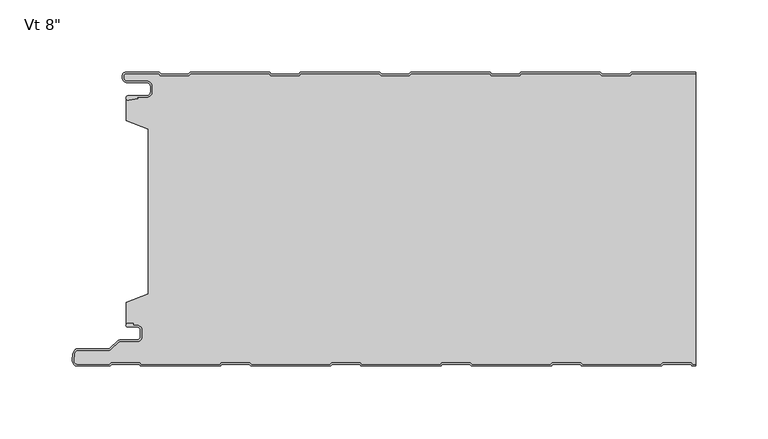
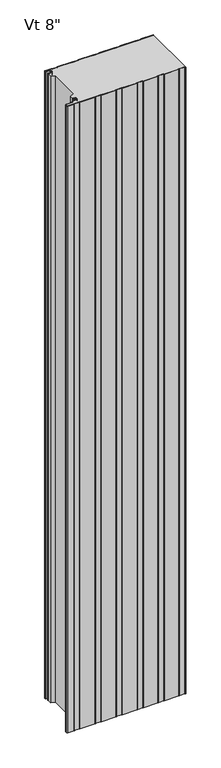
"""IFC4 building model written with IfcOpenShell, lengths in millimetres: plate geometry."""

import ifcopenshell
import ifcopenshell.guid

model = None  # the IFC model being written
_history = None  # IfcOwnerHistory: only IFC2X3 demands one
_inside = {}  # id of a spatial element -> (the spatial element, [elements in it])
_under = {}  # id of a project, library or spatial element -> (it, [spatial elements below it])
_declared = {}  # id of a project -> (the project, [libraries it declares])
_typed = {}  # id of a type object -> (the type object, [elements of that type])
_made_of = {}  # id of a material, layer set ... -> (it, [elements and type objects made of it])


def new_model(schema):
    """Start an empty IFC model of exactly this schema.

    Asked for "IFC4X3", IfcOpenShell would pick the latest addendum, in which some entities
    have other attributes; the version numbers below select the first issue.
    IFC2X3 requires an IfcOwnerHistory on every rooted entity: one is made here for all.
    """
    global model, _history
    if schema == "IFC4X3":
        model = ifcopenshell.file(schema_version=(4, 3, 0, 0))
    else:
        model = ifcopenshell.file(schema=schema)
    _inside.clear()
    _under.clear()
    _declared.clear()
    _typed.clear()
    _made_of.clear()
    _history = None
    if model.schema == "IFC2X3":
        org = make("IfcOrganization", Name="unknown")
        user = make(
            "IfcPersonAndOrganization",
            ThePerson=make("IfcPerson", FamilyName="unknown"),
            TheOrganization=org,
        )
        app = make(
            "IfcApplication",
            ApplicationDeveloper=org,
            Version="unknown",
            ApplicationFullName="unknown",
            ApplicationIdentifier="unknown",
        )
        _history = make(
            "IfcOwnerHistory",
            OwningUser=user,
            OwningApplication=app,
            ChangeAction="ADDED",
            CreationDate=0,
        )
    return model


def make(cls, **values):
    """One entity of the class cls with the attributes given. An attribute that is None is left unset."""
    return model.create_entity(
        cls, **{name: value for name, value in values.items() if value is not None}
    )


def rooted(cls, **values):
    """An entity with a GlobalId (a new one), such as an element, a storey or a relation."""
    return make(cls, GlobalId=ifcopenshell.guid.new(), OwnerHistory=_history, **values)


def si_unit(unit_type, name, prefix=None):
    """IfcSIUnit, for example si_unit("LENGTHUNIT", "METRE", prefix="MILLI")."""
    return make("IfcSIUnit", UnitType=unit_type, Prefix=prefix, Name=name)


def assignment(units):
    """IfcUnitAssignment: the units of a project."""
    return None if units is None else make("IfcUnitAssignment", Units=units)


def point(xyz):
    """IfcCartesianPoint."""
    return None if xyz is None else make("IfcCartesianPoint", Coordinates=xyz)


def direction(xyz):
    """IfcDirection."""
    return None if xyz is None else make("IfcDirection", DirectionRatios=xyz)


def frame(location, z_axis=None, x_axis=None):
    """IfcAxis2Placement3D, a coordinate frame: its origin and axes. An axis left out is left unset."""
    return make(
        "IfcAxis2Placement3D",
        Location=point(location),
        Axis=direction(z_axis),
        RefDirection=direction(x_axis),
    )


def frame_2d(location, x_axis=None):
    """IfcAxis2Placement2D, a coordinate frame in the plane: its origin and x axis."""
    return make(
        "IfcAxis2Placement2D", Location=point(location), RefDirection=direction(x_axis)
    )


def origin():
    """The frame at (0, 0, 0) with its axes left unset."""
    return frame((0.0, 0.0, 0.0))


def origin_with_axes():
    """The frame at (0, 0, 0) with the z axis (0, 0, 1) and the x axis (1, 0, 0) written out."""
    return frame((0.0, 0.0, 0.0), z_axis=(0.0, 0.0, 1.0), x_axis=(1.0, 0.0, 0.0))


def place(relative_to, where):
    """IfcLocalPlacement: puts the frame where relative to a parent placement (None: the world)."""
    return make(
        "IfcLocalPlacement", PlacementRelTo=relative_to, RelativePlacement=where
    )


def context(
    kind, dimensions, precision=None, world=None, true_north=None, identifier=None
):
    """IfcGeometricRepresentationContext, for example the 3D "Model" context."""
    return make(
        "IfcGeometricRepresentationContext",
        ContextIdentifier=identifier,
        ContextType=kind,
        CoordinateSpaceDimension=dimensions,
        Precision=precision,
        WorldCoordinateSystem=world,
        TrueNorth=true_north,
    )


def project(units=None, contexts=None):
    """IfcProject with its units and contexts."""
    return rooted(
        "IfcProject",
        Name="project",
        RepresentationContexts=contexts,
        UnitsInContext=assignment(units),
    )


def spatial(cls, under=None, at=None, **own):
    """A site, building, storey or space (cls), placed at a placement, below another one or the project."""
    s = rooted(cls, ObjectPlacement=at, **own)
    if under is not None:
        _under.setdefault(under.id(), (under, []))[1].append(s)
    return s


def polyline(points):
    """IfcPolyline through the points."""
    return make("IfcPolyline", Points=[point(p) for p in points])


def circle_curve(where, radius):
    """IfcCircle in the frame where."""
    return make("IfcCircle", Position=where, Radius=radius)


def trimmed(basis, trim1, trim2, sense, master):
    """IfcTrimmedCurve: the piece of a basis curve between two trims."""
    return make(
        "IfcTrimmedCurve",
        BasisCurve=basis,
        Trim1=trim1,
        Trim2=trim2,
        SenseAgreement=sense,
        MasterRepresentation=master,
    )


def segment(curve, same_sense, transition):
    """IfcCompositeCurveSegment."""
    return make(
        "IfcCompositeCurveSegment",
        Transition=transition,
        SameSense=same_sense,
        ParentCurve=curve,
    )


def composite_curve(segments, self_intersect=None):
    """IfcCompositeCurve: segments joined end to end."""
    return make("IfcCompositeCurve", Segments=segments, SelfIntersect=self_intersect)


def outline(outer, holes=None, kind="AREA"):
    """IfcArbitraryClosedProfileDef: a profile drawn as a closed curve; with holes, ...WithVoids."""
    if holes is None:
        return make("IfcArbitraryClosedProfileDef", ProfileType=kind, OuterCurve=outer)
    return make(
        "IfcArbitraryProfileDefWithVoids",
        ProfileType=kind,
        OuterCurve=outer,
        InnerCurves=holes,
    )


def extrude(swept, where, along, depth):
    """IfcExtrudedAreaSolid: the profile swept, set in the frame where, extruded along a direction by depth."""
    return make(
        "IfcExtrudedAreaSolid",
        SweptArea=swept,
        Position=where,
        ExtrudedDirection=direction(along),
        Depth=depth,
    )


def shape(context_of_items, identifier, shape_type, items):
    """IfcShapeRepresentation: the items that make up one representation, for example the "Body"."""
    return make(
        "IfcShapeRepresentation",
        ContextOfItems=context_of_items,
        RepresentationIdentifier=identifier,
        RepresentationType=shape_type,
        Items=items,
    )


def source(mapping_origin, context_of_items, identifier, shape_type, items):
    """IfcRepresentationMap: a shape defined once, which mapped items show again and again."""
    return make(
        "IfcRepresentationMap",
        MappingOrigin=mapping_origin,
        MappedRepresentation=shape(context_of_items, identifier, shape_type, items),
    )


def transform(
    local_origin,
    x_axis=None,
    y_axis=None,
    z_axis=None,
    scale=None,
    scale2=None,
    scale3=None,
    uniform=True,
):
    """IfcCartesianTransformationOperator3D, or its non-uniform kind. x_axis, y_axis, z_axis: its Axis1, 2, 3."""
    if uniform:
        return make(
            "IfcCartesianTransformationOperator3D",
            Axis1=direction(x_axis),
            Axis2=direction(y_axis),
            LocalOrigin=point(local_origin),
            Scale=scale,
            Axis3=direction(z_axis),
        )
    return make(
        "IfcCartesianTransformationOperator3DnonUniform",
        Axis1=direction(x_axis),
        Axis2=direction(y_axis),
        LocalOrigin=point(local_origin),
        Scale=scale,
        Axis3=direction(z_axis),
        Scale2=scale2,
        Scale3=scale3,
    )


def mapped(mapping_source, mapping_target):
    """IfcMappedItem: shows the shape of a source again, moved by a transform."""
    return make(
        "IfcMappedItem", MappingSource=mapping_source, MappingTarget=mapping_target
    )


def made_of(thing, what):
    """Note that an element or type object is made of a material, layer set ...; save() writes the relation."""
    if what is not None:
        _made_of.setdefault(what.id(), (what, []))[1].append(thing)
    return thing


def element(
    cls,
    number,
    at=None,
    inside=None,
    cuts=None,
    type_object=None,
    material=None,
    context=None,
    identifier="Body",
    shape_type=None,
    held_by="IfcProductDefinitionShape",
    body=None,
    shapes=None,
    **own,
):
    """One element of the class cls, such as IfcWall. Its Tag is "e" and its number.

    at: its placement. inside: the storey or other place that contains it. cuts: it is an
    opening in that element (IfcRelVoidsElement). A single representation is given by context,
    identifier, shape_type and body (its items); several are given by shapes. held_by: the class
    of the entity that holds the representations. save() writes the other relations.
    """
    e = rooted(cls, Tag="e%d" % number, ObjectPlacement=at, **own)
    if body is not None:
        shapes = [shape(context, identifier, shape_type, body)]
    if shapes is not None:
        e.Representation = make(held_by, Representations=shapes)
    if inside is not None:
        _inside.setdefault(inside.id(), (inside, []))[1].append(e)
    if cuts is not None:
        rooted(
            "IfcRelVoidsElement", RelatingBuildingElement=cuts, RelatedOpeningElement=e
        )
    if type_object is not None:
        _typed.setdefault(type_object.id(), (type_object, []))[1].append(e)
    return made_of(e, material)


def aggregate(whole, parts):
    """IfcRelAggregates: a whole, such as a stair, and the parts it consists of."""
    return rooted("IfcRelAggregates", RelatingObject=whole, RelatedObjects=parts)


def save(model, path):
    """Write the relations noted so far, then the file.

    IfcRelAggregates (storeys below a building ...), IfcRelContainedInSpatialStructure (elements
    in a storey), IfcRelDefinesByType, IfcRelAssociatesMaterial and IfcRelDeclares: one each for
    every whole, place, type object, material and project.
    """
    for whole, parts in _under.values():
        aggregate(whole, parts)
    for where, things in _inside.values():
        rooted(
            "IfcRelContainedInSpatialStructure",
            RelatedElements=things,
            RelatingStructure=where,
        )
    for kind, things in _typed.values():
        rooted("IfcRelDefinesByType", RelatedObjects=things, RelatingType=kind)
    for what, things in _made_of.values():
        rooted("IfcRelAssociatesMaterial", RelatedObjects=things, RelatingMaterial=what)
    for by, libraries in _declared.values():
        rooted("IfcRelDeclares", RelatingContext=by, RelatedDefinitions=libraries)
    model.write(path)


def plane_surface(at):
    """IfcPlane: the flat surface through the origin of the frame at, square to its z axis."""
    return make("IfcPlane", Position=at)


def cylinder_surface(at, radius):
    """IfcCylindricalSurface: all points at the distance radius from the z axis of the frame at."""
    return make("IfcCylindricalSurface", Position=at, Radius=radius)


def revolved_surface(curve, axis_point, axis_direction):
    """IfcSurfaceOfRevolution: the curve turned about the line through axis_point along axis_direction."""
    return make(
        "IfcSurfaceOfRevolution",
        SweptCurve=make("IfcArbitraryOpenProfileDef", ProfileType="CURVE", Curve=curve),
        AxisPosition=make("IfcAxis1Placement", Location=point(axis_point), Axis=direction(axis_direction)),
    )


def advanced_brep(points, edges, surfaces, faces):
    """IfcAdvancedBrep: a solid bounded by faces that lie on surfaces and meet in shared edges.

    An edge is (start, end): straight between two places in points (the first is 0);
    or (start, end, curve); or (start, end, curve, False) where it runs against its curve.
    A face is (place in surfaces, loops), or (place, loops, False) where it looks against
    its surface's normal. A loop lists edges by number (the first is 1), with a minus sign
    where the edge is run from its end to its start. The first loop is the outer one.
    """
    corners = [point(p) for p in points]
    vertices = [make("IfcVertexPoint", VertexGeometry=c) for c in corners]
    made = []
    for start, end, *more in edges:
        made.append(
            make(
                "IfcEdgeCurve",
                EdgeStart=vertices[start],
                EdgeEnd=vertices[end],
                EdgeGeometry=more[0] if more else make("IfcPolyline", Points=[corners[start], corners[end]]),
                SameSense=more[1] if len(more) > 1 else True,
            )
        )
    hull = []
    for where, loops, *sense in faces:
        bounds = []
        for j, loop in enumerate(loops):
            ring = [make("IfcOrientedEdge", EdgeElement=made[abs(k) - 1], Orientation=k > 0) for k in loop]
            bounds.append(
                make(
                    "IfcFaceOuterBound" if j == 0 else "IfcFaceBound",
                    Bound=make("IfcEdgeLoop", EdgeList=ring),
                    Orientation=True,
                )
            )
        hull.append(make("IfcAdvancedFace", Bounds=bounds, FaceSurface=surfaces[where], SameSense=sense[0] if sense else True))
    return make("IfcAdvancedBrep", Outer=make("IfcClosedShell", CfsFaces=hull))


def plate_7f17f36e(model_context):
    return source(origin(), model_context, "Body", "SolidModel", [
        extrude(outline(composite_curve([segment(polyline([(-196.9639401, -1.03e-05), (-173.8991777, -1.03e-05), (-172.6989573, -1.2002307), (-153.8919247, -1.2002307), (-152.6916939, 0.0), (-97.6993404, 0.0), (-96.4991097, -1.2002307), (-77.6920771, -1.2002307), (-76.4918463, 0.0), (-21.5159312, 0.0), (-20.3157004, -1.2002307), (-1.5086678, -1.2002307), (-0.3084371, 0.0), (54.667478, 0.0), (55.8677088, -1.2002307), (74.6747414, -1.2002307), (75.8749721, 0.0), (130.8673256, 0.0), (132.0675564, -1.2002307), (150.874589, -1.2002307), (152.0748197, 0.0), (196.6137654, 0.0), (196.6137654, -1.0), (152.4890333, -1.0), (151.2888025, -2.2002307), (131.6533428, -2.2002307), (130.4531121, -1.0), (76.2891857, -1.0), (75.0889549, -2.2002307), (55.4534952, -2.2002307), (54.2532645, -1.0), (0.1057765, -1.0), (-1.0944543, -2.2002307), (-20.729914, -2.2002307), (-21.9301447, -1.0), (-76.0776328, -1.0), (-77.2778635, -2.2002307), (-96.9133232, -2.2002307), (-98.113554, -1.0), (-152.2774804, -1.0), (-153.4777111, -2.2002307), (-173.1131708, -2.2002307), (-174.3133912, -1.0000103), (-196.9839768, -1.0000103)]), True, "CONTINUOUS"), segment(trimmed(circle_curve(frame_2d((-197.0487242, -2.3984828)), 1.3999705), [point((-196.9839768, -1.0000103))], [point((-198.4486947, -2.3984828))], True, "CARTESIAN"), True, "CONTINUOUS"), segment(polyline([(-198.4486947, -2.3984828), (-198.4486947, -3.9515996)]), True, "CONTINUOUS"), segment(trimmed(circle_curve(frame_2d((-196.2386394, -3.9515996)), 2.2100553), [point((-198.4486947, -3.9515996))], [point((-196.2386394, -6.1616549))], True, "CARTESIAN"), True, "CONTINUOUS"), segment(polyline([(-196.2386394, -6.1616549), (-182.7094114, -6.1616549)]), True, "CONTINUOUS"), segment(trimmed(circle_curve(frame_2d((-182.7094114, -9.881641)), 3.7199861), [point((-182.7094114, -6.1616549))], [point((-178.9894252, -9.881641))], False, "CARTESIAN"), True, "CONTINUOUS"), segment(polyline([(-178.9894252, -9.881641), (-178.9894252, -13.5282389)]), True, "CONTINUOUS"), segment(trimmed(circle_curve(frame_2d((-182.7094216, -13.5282389)), 3.7199964), [point((-178.9894252, -13.5282389))], [point((-182.7094216, -17.2482353))], False, "CARTESIAN"), True, "CONTINUOUS"), segment(polyline([(-182.7094216, -17.2482353), (-189.0545396, -17.2482353), (-188.8919338, -18.1704184), (-195.1454629, -19.2730843)]), True, "CONTINUOUS"), segment(trimmed(circle_curve(frame_2d((-195.4101029, -17.7722363)), 1.524001), [point((-195.1454629, -19.2730843))], [point((-195.4101029, -16.2482353))], False, "CARTESIAN"), True, "CONTINUOUS"), segment(polyline([(-195.4101029, -16.2482353), (-182.7094216, -16.2482353)]), True, "CONTINUOUS"), segment(trimmed(circle_curve(frame_2d((-182.7094216, -13.5282389)), 2.7199964), [point((-182.7094216, -16.2482353))], [point((-179.9894252, -13.5282389))], True, "CARTESIAN"), True, "CONTINUOUS"), segment(polyline([(-179.9894252, -13.5282389), (-179.9894252, -9.881641)]), True, "CONTINUOUS"), segment(trimmed(circle_curve(frame_2d((-182.7094114, -9.881641)), 2.7199861), [point((-179.9894252, -9.881641))], [point((-182.7094114, -7.1616549))], True, "CARTESIAN"), True, "CONTINUOUS"), segment(polyline([(-182.7094114, -7.1616549), (-196.2386394, -7.1616549)]), True, "CONTINUOUS"), segment(trimmed(circle_curve(frame_2d((-196.2386394, -3.9515996)), 3.2100553), [point((-196.2386394, -7.1616549))], [point((-199.4486948, -3.9515996))], False, "CARTESIAN"), True, "CONTINUOUS"), segment(polyline([(-199.4486948, -3.9515996), (-199.4486947, -2.3984828)]), True, "CONTINUOUS"), segment(trimmed(circle_curve(frame_2d((-197.0487242, -2.3984828)), 2.3999705), [point((-199.4486947, -2.3984828))], [point((-196.9639401, -1.03e-05))], False, "CARTESIAN"), True, "CONTINUOUS")], self_intersect=False)), origin_with_axes(), (0.0, 0.0, 1.0), 2400.0),
        extrude(outline(composite_curve([segment(polyline([(-195.7329864, -173.7057711), (-191.9745857, -173.7057711), (-191.9745857, -175.1042547), (-189.2754693, -175.1042547)]), True, "CONTINUOUS"), segment(trimmed(circle_curve(frame_2d((-189.2754693, -178.4542546)), 3.3499999), [point((-189.2754693, -175.1042547))], [point((-185.9254694, -178.4542546))], False, "CARTESIAN"), True, "CONTINUOUS"), segment(polyline([(-185.9254694, -178.4542546), (-185.9254694, -182.8542544)]), True, "CONTINUOUS"), segment(trimmed(circle_curve(frame_2d((-189.2754693, -182.8542544)), 3.3499999), [point((-185.9254694, -182.8542544))], [point((-189.2754693, -186.2042543))], False, "CARTESIAN"), True, "CONTINUOUS"), segment(polyline([(-189.2754693, -186.2042543), (-201.0863815, -186.2042543)]), True, "CONTINUOUS"), segment(trimmed(circle_curve(frame_2d((-201.0863815, -187.9042543)), 1.7), [point((-201.0863815, -186.2042543))], [point((-202.288463, -186.7021728))], True, "CARTESIAN"), True, "CONTINUOUS"), segment(polyline([(-202.288463, -186.7021728), (-207.029022, -191.4427317)]), True, "CONTINUOUS"), segment(trimmed(circle_curve(frame_2d((-208.8674996, -189.6042541)), 2.6), [point((-207.029022, -191.4427317))], [point((-208.8674996, -192.2042541))], False, "CARTESIAN"), True, "CONTINUOUS"), segment(polyline([(-208.8674996, -192.2042541), (-229.8742569, -192.2042541)]), True, "CONTINUOUS"), segment(trimmed(circle_curve(frame_2d((-229.8742569, -194.9042541)), 2.7), [point((-229.8742569, -192.2042541))], [point((-232.563964, -194.6687213))], True, "CARTESIAN"), True, "CONTINUOUS"), segment(polyline([(-232.563964, -194.6687213), (-232.9796492, -199.4157099)]), True, "CONTINUOUS"), segment(trimmed(circle_curve(frame_2d((-230.4287597, -199.6390867)), 2.5606512), [point((-232.9796492, -199.4157099))], [point((-230.4287597, -202.1997378))], True, "CARTESIAN"), True, "CONTINUOUS"), segment(polyline([(-230.4287597, -202.1997378), (-208.4557382, -202.1997378), (-207.2557697, -200.9997693), (-187.5363572, -200.9997693), (-186.3361265, -202.2), (-132.2559947, -202.2), (-131.055764, -200.9997693), (-111.3363515, -200.9997693), (-110.1361208, -202.2), (-56.055989, -202.2), (-54.8557583, -200.9997693), (-35.1363458, -200.9997693), (-33.9361151, -202.2), (20.1440167, -202.2), (21.3442474, -200.9997693), (41.0636599, -200.9997693), (42.2638906, -202.2), (96.3440224, -202.2), (97.5442531, -200.9997693), (117.2636656, -200.9997693), (118.4638963, -202.2), (172.5440281, -202.2), (173.7442588, -200.9997693), (193.4636713, -200.9997693), (194.663902, -202.2), (196.6137654, -202.2), (196.6137654, -203.2), (194.8333369, -203.2)]), True, "CONTINUOUS"), segment(trimmed(circle_curve(frame_2d((194.8256836, -201.8000237)), 1.3999972), [point((194.8333369, -203.2))], [point((193.7816329, -202.7327349))], False, "CARTESIAN"), True, "CONTINUOUS"), segment(polyline([(193.7816329, -202.7327349), (193.0486673, -201.9997693), (174.1579981, -201.9997693), (173.4250534, -202.732714)]), True, "CONTINUOUS"), segment(trimmed(circle_curve(frame_2d((172.3810026, -201.8000028)), 1.3999972), [point((173.4250534, -202.732714))], [point((172.3810026, -203.2))], False, "CARTESIAN"), True, "CONTINUOUS"), segment(polyline([(172.3810026, -203.2), (118.6334893, -203.2)]), True, "CONTINUOUS"), segment(trimmed(circle_curve(frame_2d((118.625836, -201.8000237)), 1.3999972), [point((118.6334893, -203.2))], [point((117.5817853, -202.7327349))], False, "CARTESIAN"), True, "CONTINUOUS"), segment(polyline([(117.5817853, -202.7327349), (116.8488197, -201.9997693), (97.9581505, -201.9997693), (97.2252058, -202.732714)]), True, "CONTINUOUS"), segment(trimmed(circle_curve(frame_2d((96.181155, -201.8000028)), 1.3999972), [point((97.2252058, -202.732714))], [point((96.181155, -203.2))], False, "CARTESIAN"), True, "CONTINUOUS"), segment(polyline([(96.181155, -203.2), (42.4336417, -203.2)]), True, "CONTINUOUS"), segment(trimmed(circle_curve(frame_2d((42.4259884, -201.8000237)), 1.3999972), [point((42.4336417, -203.2))], [point((41.3819376, -202.7327349))], False, "CARTESIAN"), True, "CONTINUOUS"), segment(polyline([(41.3819376, -202.7327349), (40.6489721, -201.9997693), (21.7583029, -201.9997693), (21.0253582, -202.732714)]), True, "CONTINUOUS"), segment(trimmed(circle_curve(frame_2d((19.9813074, -201.8000028)), 1.3999972), [point((21.0253582, -202.732714))], [point((19.9813074, -203.2))], False, "CARTESIAN"), True, "CONTINUOUS"), segment(polyline([(19.9813074, -203.2), (-33.7662059, -203.2)]), True, "CONTINUOUS"), segment(trimmed(circle_curve(frame_2d((-33.7738592, -201.8000237)), 1.3999972), [point((-33.7662059, -203.2))], [point((-34.81791, -202.7327349))], False, "CARTESIAN"), True, "CONTINUOUS"), segment(polyline([(-34.81791, -202.7327349), (-35.5508755, -201.9997693), (-54.4415447, -201.9997693), (-55.1744894, -202.732714)]), True, "CONTINUOUS"), segment(trimmed(circle_curve(frame_2d((-56.2185402, -201.8000028)), 1.3999972), [point((-55.1744894, -202.732714))], [point((-56.2185402, -203.2))], False, "CARTESIAN"), True, "CONTINUOUS"), segment(polyline([(-56.2185402, -203.2), (-109.9660535, -203.2)]), True, "CONTINUOUS"), segment(trimmed(circle_curve(frame_2d((-109.9737068, -201.8000237)), 1.3999972), [point((-109.9660535, -203.2))], [point((-111.0177576, -202.7327349))], False, "CARTESIAN"), True, "CONTINUOUS"), segment(polyline([(-111.0177576, -202.7327349), (-111.7507231, -201.9997693), (-130.6413923, -201.9997693), (-131.374337, -202.732714)]), True, "CONTINUOUS"), segment(trimmed(circle_curve(frame_2d((-132.4183878, -201.8000028)), 1.3999972), [point((-131.374337, -202.732714))], [point((-132.4183878, -203.2))], False, "CARTESIAN"), True, "CONTINUOUS"), segment(polyline([(-132.4183878, -203.2), (-186.1659011, -203.2)]), True, "CONTINUOUS"), segment(trimmed(circle_curve(frame_2d((-186.1735544, -201.8000237)), 1.3999972), [point((-186.1659011, -203.2))], [point((-187.2176052, -202.7327349))], False, "CARTESIAN"), True, "CONTINUOUS"), segment(polyline([(-187.2176052, -202.7327349), (-187.9505707, -201.9997693), (-206.8415561, -201.9997693), (-207.5742824, -202.7324955)]), True, "CONTINUOUS"), segment(trimmed(circle_curve(frame_2d((-208.6182354, -201.7998717)), 1.3998661), [point((-207.5742824, -202.7324955))], [point((-208.6182354, -203.1997378))], False, "CARTESIAN"), True, "CONTINUOUS"), segment(polyline([(-208.6182354, -203.1997378), (-230.4287597, -203.1997378)]), True, "CONTINUOUS"), segment(trimmed(circle_curve(frame_2d((-230.4287597, -199.6390867)), 3.5606512), [point((-230.4287597, -203.1997378))], [point((-233.975837, -199.3284755))], False, "CARTESIAN"), True, "CONTINUOUS"), segment(polyline([(-233.975837, -199.3284755), (-233.5601518, -194.581487)]), True, "CONTINUOUS"), segment(trimmed(circle_curve(frame_2d((-229.8742569, -194.9042541)), 3.7), [point((-233.5601518, -194.581487))], [point((-229.8742569, -191.2042541))], False, "CARTESIAN"), True, "CONTINUOUS"), segment(polyline([(-229.8742569, -191.2042541), (-208.8674996, -191.2042541)]), True, "CONTINUOUS"), segment(trimmed(circle_curve(frame_2d((-208.8674996, -189.6042541)), 1.6), [point((-208.8674996, -191.2042541))], [point((-207.7361288, -190.735625))], True, "CARTESIAN"), True, "CONTINUOUS"), segment(polyline([(-207.7361288, -190.735625), (-202.9955698, -185.995066)]), True, "CONTINUOUS"), segment(trimmed(circle_curve(frame_2d((-201.0863815, -187.9042543)), 2.7), [point((-202.9955698, -185.995066))], [point((-201.0863815, -185.2042543))], False, "CARTESIAN"), True, "CONTINUOUS"), segment(polyline([(-201.0863815, -185.2042543), (-189.2754693, -185.2042543)]), True, "CONTINUOUS"), segment(trimmed(circle_curve(frame_2d((-189.2754693, -182.8542544)), 2.3499999), [point((-189.2754693, -185.2042543))], [point((-186.9254694, -182.8542544))], True, "CARTESIAN"), True, "CONTINUOUS"), segment(polyline([(-186.9254694, -182.8542544), (-186.9254694, -178.4542546)]), True, "CONTINUOUS"), segment(trimmed(circle_curve(frame_2d((-189.2754693, -178.4542546)), 2.3499999), [point((-186.9254694, -178.4542546))], [point((-189.2754693, -176.1042547))], True, "CARTESIAN"), True, "CONTINUOUS"), segment(polyline([(-189.2754693, -176.1042547), (-195.7947883, -176.1042547)]), True, "CONTINUOUS"), segment(trimmed(circle_curve(frame_2d((-195.734501, -174.9057701)), 1.2), [point((-195.7947883, -176.1042547))], [point((-195.7329864, -173.7057711))], False, "CARTESIAN"), True, "CONTINUOUS")], self_intersect=False)), origin_with_axes(), (0.0, 0.0, 1.0), 2400.0),
        advanced_brep(
        [(-189.2754693, -175.1042547, 2400.0), (-185.9254694, -178.4542546, 2400.0), (-185.9254694, -182.8542544, 2400.0), (-189.2754693, -186.2042543, 2400.0), (-201.0863815, -186.2042543, 2400.0), (-202.288463, -186.7021728, 2400.0), (-207.029022, -191.4427317, 2400.0), (-208.8674996, -192.2042541, 2400.0), (-229.8742569, -192.2042541, 2400.0), (-232.563964, -194.6687213, 2400.0), (-232.9796492, -199.4157099, 2400.0), (-230.4287597, -202.1997378, 2400.0), (-208.4557382, -202.1997378, 2400.0), (-207.2557697, -200.9997693, 2400.0), (-187.5363572, -200.9997693, 2400.0), (-186.3361265, -202.2, 2400.0), (-132.2559947, -202.2, 2400.0), (-131.055764, -200.9997693, 2400.0), (-111.3363515, -200.9997693, 2400.0), (-110.1361208, -202.2, 2400.0), (-56.055989, -202.2, 2400.0), (-54.8557583, -200.9997693, 2400.0), (-35.1363458, -200.9997693, 2400.0), (-33.9361151, -202.2, 2400.0), (20.1440167, -202.2, 2400.0), (21.3442474, -200.9997693, 2400.0), (41.0636599, -200.9997693, 2400.0), (42.2638906, -202.2, 2400.0), (96.3440224, -202.2, 2400.0), (97.5442531, -200.9997693, 2400.0), (117.2636656, -200.9997693, 2400.0), (118.4638963, -202.2, 2400.0), (172.5440281, -202.2, 2400.0), (173.7442588, -200.9997693, 2400.0), (193.4636713, -200.9997693, 2400.0), (194.663902, -202.2, 2400.0), (196.6137654, -202.2, 2400.0), (196.6137654, -1.0, 2400.0), (152.4890333, -1.0, 2400.0), (151.2888025, -2.2002307, 2400.0), (131.6533428, -2.2002307, 2400.0), (130.4531121, -1.0, 2400.0), (76.2891857, -1.0, 2400.0), (75.0889549, -2.2002307, 2400.0), (55.4534952, -2.2002307, 2400.0), (54.2532645, -1.0, 2400.0), (0.1057765, -1.0, 2400.0), (-1.0944543, -2.2002307, 2400.0), (-20.729914, -2.2002307, 2400.0), (-21.9301447, -1.0, 2400.0), (-76.0776328, -1.0, 2400.0), (-77.2778635, -2.2002307, 2400.0), (-96.9133232, -2.2002307, 2400.0), (-98.113554, -1.0, 2400.0), (-152.2774804, -1.0, 2400.0), (-153.4777111, -2.2002307, 2400.0), (-173.1131708, -2.2002307, 2400.0), (-174.3133912, -1.0000103, 2400.0), (-196.9839768, -1.0000103, 2400.0), (-198.4486947, -2.3984828, 2400.0), (-198.4486947, -3.9515996, 2400.0), (-196.2386394, -6.1616549, 2400.0), (-182.7094114, -6.1616549, 2400.0), (-178.9894252, -9.881641, 2400.0), (-178.9894252, -13.5282389, 2400.0), (-182.7094216, -17.2482353, 2400.0), (-189.0545396, -17.2482353, 2400.0), (-188.8919338, -18.1704184, 2400.0), (-195.1454629, -19.2730843, 2400.0), (-196.5999998, -18.7244571, 2400.0), (-196.5999998, -33.5050578, 2400.0), (-181.6020466, -39.1301019, 2400.0), (-181.588281, -153.3686066, 2400.0), (-196.5999998, -158.992572, 2400.0), (-196.5999998, -174.0745591, 2400.0), (-195.7329864, -173.7057711, 2400.0), (-191.9745857, -173.7057711, 2400.0), (-191.9745857, -175.1042547, 2400.0), (-189.2754693, -175.1042547, 0.0), (-191.9745857, -175.1042547, 0.0), (-191.9745857, -173.7057711, 0.0), (-195.7329864, -173.7057711, 0.0), (-196.5999998, -174.0745591, 0.0), (-196.5999998, -158.992572, 0.0), (-181.6020466, -153.3683444, 0.0), (-181.588281, -39.1301019, 0.0), (-196.5999998, -33.5050578, 0.0), (-196.5999998, -18.7244571, 0.0), (-195.1454629, -19.2730843, 0.0), (-188.8919338, -18.1704184, 0.0), (-189.0545396, -17.2482353, 0.0), (-182.7094216, -17.2482353, 0.0), (-178.9894252, -13.5282389, 0.0), (-178.9894252, -9.881641, 0.0), (-182.7094114, -6.1616549, 0.0), (-196.2386394, -6.1616549, 0.0), (-198.4486948, -3.9515996, 0.0), (-198.4486947, -2.3984828, 0.0), (-196.9839768, -1.0000103, 0.0), (-174.3133912, -1.0000103, 0.0), (-173.1131708, -2.2002307, 0.0), (-153.4777111, -2.2002307, 0.0), (-152.2774804, -1.0, 0.0), (-98.113554, -1.0, 0.0), (-96.9133232, -2.2002307, 0.0), (-77.2778635, -2.2002307, 0.0), (-76.0776328, -1.0, 0.0), (-21.9301447, -1.0, 0.0), (-20.729914, -2.2002307, 0.0), (-1.0944543, -2.2002307, 0.0), (0.1057765, -1.0, 0.0), (54.2532645, -1.0, 0.0), (55.4534952, -2.2002307, 0.0), (75.0889549, -2.2002307, 0.0), (76.2891857, -1.0, 0.0), (130.4531121, -1.0, 0.0), (131.6533428, -2.2002307, 0.0), (151.2888025, -2.2002307, 0.0), (152.4890333, -1.0, 0.0), (196.6137654, -1.0, 0.0), (196.6137654, -202.2, 0.0), (194.663902, -202.2, 0.0), (193.4636713, -200.9997693, 0.0), (173.7442588, -200.9997693, 0.0), (172.5440281, -202.2, 0.0), (118.4638963, -202.2, 0.0), (117.2636656, -200.9997693, 0.0), (97.5442531, -200.9997693, 0.0), (96.3440224, -202.2, 0.0), (42.2638906, -202.2, 0.0), (41.0636599, -200.9997693, 0.0), (21.3442474, -200.9997693, 0.0), (20.1440167, -202.2, 0.0), (-33.9361151, -202.2, 0.0), (-35.1363458, -200.9997693, 0.0), (-54.8557583, -200.9997693, 0.0), (-56.055989, -202.2, 0.0), (-110.1361208, -202.2, 0.0), (-111.3363515, -200.9997693, 0.0), (-131.055764, -200.9997693, 0.0), (-132.2559947, -202.2, 0.0), (-186.3361265, -202.2, 0.0), (-187.5363572, -200.9997693, 0.0), (-207.2557697, -200.9997693, 0.0), (-208.4557382, -202.1997378, 0.0), (-230.4287597, -202.1997378, 0.0), (-232.9796492, -199.4157099, 0.0), (-232.563964, -194.6687213, 0.0), (-229.8742569, -192.2042541, 0.0), (-208.8674996, -192.2042541, 0.0), (-207.029022, -191.4427317, 0.0), (-202.288463, -186.7021728, 0.0), (-201.0863815, -186.2042543, 0.0), (-189.2754693, -186.2042543, 0.0), (-185.9254694, -182.8542544, 0.0), (-185.9254694, -178.4542546, 0.0)],
        [
            (0, 1, circle_curve(frame((-189.2754693, -178.4542546, 2400.0), z_axis=(0.0, 0.0, -1.0), x_axis=(-1.0, 0.0, 0.0)), 3.3499999)),
            (1, 2),
            (2, 3, circle_curve(frame((-189.2754693, -182.8542544, 2400.0), z_axis=(0.0, 0.0, -1.0), x_axis=(-1.0, 0.0, 0.0)), 3.3499999)),
            (3, 4),
            (4, 5, circle_curve(frame((-201.0863815, -187.9042543, 2400.0), z_axis=(0.0, 0.0, 1.0), x_axis=(-1.0, 0.0, 0.0)), 1.7)),
            (5, 6),
            (6, 7, circle_curve(frame((-208.8674996, -189.6042541, 2400.0), z_axis=(0.0, 0.0, -1.0), x_axis=(-1.0, 0.0, 0.0)), 2.6)),
            (7, 8),
            (8, 9, circle_curve(frame((-229.8742569, -194.9042541, 2400.0), z_axis=(0.0, 0.0, 1.0), x_axis=(-1.0, 0.0, 0.0)), 2.7)),
            (9, 10),
            (10, 11, circle_curve(frame((-230.4287597, -199.6390867, 2400.0), z_axis=(0.0, 0.0, 1.0), x_axis=(-1.0, 0.0, 0.0)), 2.5606512)),
            (11, 12),
            (12, 13),
            (13, 14),
            (14, 15),
            (15, 16),
            (16, 17),
            (17, 18),
            (18, 19),
            (19, 20),
            (20, 21),
            (21, 22),
            (22, 23),
            (23, 24),
            (24, 25),
            (25, 26),
            (26, 27),
            (27, 28),
            (28, 29),
            (29, 30),
            (30, 31),
            (31, 32),
            (32, 33),
            (33, 34),
            (34, 35),
            (35, 36),
            (36, 37),
            (37, 38),
            (38, 39),
            (39, 40),
            (40, 41),
            (41, 42),
            (42, 43),
            (43, 44),
            (44, 45),
            (45, 46),
            (46, 47),
            (47, 48),
            (48, 49),
            (49, 50),
            (50, 51),
            (51, 52),
            (52, 53),
            (53, 54),
            (54, 55),
            (55, 56),
            (56, 57),
            (57, 58),
            (58, 59, circle_curve(frame((-197.0487242, -2.3984828, 2400.0), z_axis=(0.0, 0.0, 1.0), x_axis=(-1.0, 0.0, 0.0)), 1.3999705)),
            (59, 60),
            (60, 61, circle_curve(frame((-196.2386394, -3.9515996, 2400.0), z_axis=(0.0, 0.0, 1.0), x_axis=(-1.0, 0.0, 0.0)), 2.2100553)),
            (61, 62),
            (62, 63, circle_curve(frame((-182.7094114, -9.881641, 2400.0), z_axis=(0.0, 0.0, -1.0), x_axis=(-1.0, 0.0, 0.0)), 3.7199861)),
            (63, 64),
            (64, 65, circle_curve(frame((-182.7094216, -13.5282389, 2400.0), z_axis=(0.0, 0.0, -1.0), x_axis=(-1.0, 0.0, 0.0)), 3.7199964)),
            (65, 66),
            (66, 67),
            (67, 68),
            (68, 69, circle_curve(frame((-195.4101029, -17.7722363, 2400.0), z_axis=(0.0, 0.0, -1.0), x_axis=(-1.0, 0.0, 0.0)), 1.524001)),
            (69, 70),
            (70, 71),
            (71, 72),
            (72, 73),
            (73, 74),
            (74, 75, circle_curve(frame((-195.734501, -174.9057701, 2400.0), z_axis=(0.0, 0.0, -1.0), x_axis=(-1.0, 0.0, 0.0)), 1.2)),
            (75, 76),
            (76, 77),
            (77, 0),
            (78, 79),
            (79, 80),
            (80, 81),
            (81, 82, circle_curve(frame((-195.734501, -174.9057701, 0.0), z_axis=(0.0, 0.0, 1.0), x_axis=(-1.0, 0.0, 0.0)), 1.2)),
            (82, 83),
            (83, 84),
            (84, 85),
            (85, 86),
            (86, 87),
            (87, 88, circle_curve(frame((-195.4101029, -17.7722363, 0.0), z_axis=(0.0, 0.0, 1.0), x_axis=(-1.0, 0.0, 0.0)), 1.524001)),
            (88, 89),
            (89, 90),
            (90, 91),
            (91, 92, circle_curve(frame((-182.7094216, -13.5282389, 0.0), z_axis=(0.0, 0.0, 1.0), x_axis=(-1.0, 0.0, 0.0)), 3.7199964)),
            (92, 93),
            (93, 94, circle_curve(frame((-182.7094114, -9.881641, 0.0), z_axis=(0.0, 0.0, 1.0), x_axis=(-1.0, 0.0, 0.0)), 3.7199861)),
            (94, 95),
            (95, 96, circle_curve(frame((-196.2386394, -3.9515996, 0.0), z_axis=(0.0, 0.0, -1.0), x_axis=(-1.0, 0.0, 0.0)), 2.2100553)),
            (96, 97),
            (97, 98, circle_curve(frame((-197.0487242, -2.3984828, 0.0), z_axis=(0.0, 0.0, -1.0), x_axis=(-1.0, 0.0, 0.0)), 1.3999705)),
            (98, 99),
            (99, 100),
            (100, 101),
            (101, 102),
            (102, 103),
            (103, 104),
            (104, 105),
            (105, 106),
            (106, 107),
            (107, 108),
            (108, 109),
            (109, 110),
            (110, 111),
            (111, 112),
            (112, 113),
            (113, 114),
            (114, 115),
            (115, 116),
            (116, 117),
            (117, 118),
            (118, 119),
            (119, 120),
            (120, 121),
            (121, 122),
            (122, 123),
            (123, 124),
            (124, 125),
            (125, 126),
            (126, 127),
            (127, 128),
            (128, 129),
            (129, 130),
            (130, 131),
            (131, 132),
            (132, 133),
            (133, 134),
            (134, 135),
            (135, 136),
            (136, 137),
            (137, 138),
            (138, 139),
            (139, 140),
            (140, 141),
            (141, 142),
            (142, 143),
            (143, 144),
            (144, 145),
            (145, 146, circle_curve(frame((-230.4287597, -199.6390867, 0.0), z_axis=(0.0, 0.0, -1.0), x_axis=(-1.0, 0.0, 0.0)), 2.5606512)),
            (146, 147),
            (147, 148, circle_curve(frame((-229.8742569, -194.9042541, 0.0), z_axis=(0.0, 0.0, -1.0), x_axis=(-1.0, 0.0, 0.0)), 2.7)),
            (148, 149),
            (149, 150, circle_curve(frame((-208.8674996, -189.6042541, 0.0), z_axis=(0.0, 0.0, 1.0), x_axis=(-1.0, 0.0, 0.0)), 2.6)),
            (150, 151),
            (151, 152, circle_curve(frame((-201.0863815, -187.9042543, 0.0), z_axis=(0.0, 0.0, -1.0), x_axis=(-1.0, 0.0, 0.0)), 1.7)),
            (152, 153),
            (153, 154, circle_curve(frame((-189.2754693, -182.8542544, 0.0), z_axis=(0.0, 0.0, 1.0), x_axis=(-1.0, 0.0, 0.0)), 3.3499999)),
            (154, 155),
            (155, 78, circle_curve(frame((-189.2754693, -178.4542546, 0.0), z_axis=(0.0, 0.0, 1.0), x_axis=(-1.0, 0.0, 0.0)), 3.3499999)),
            (62, 94),
            (93, 63),
            (61, 95),
            (60, 96),
            (59, 97),
            (58, 98),
            (57, 99),
            (56, 100),
            (55, 101),
            (54, 102),
            (53, 103),
            (52, 104),
            (51, 105),
            (50, 106),
            (49, 107),
            (48, 108),
            (47, 109),
            (46, 110),
            (45, 111),
            (44, 112),
            (43, 113),
            (42, 114),
            (41, 115),
            (40, 116),
            (39, 117),
            (38, 118),
            (37, 119),
            (70, 86),
            (85, 71),
            (69, 87),
            (68, 88),
            (67, 89),
            (66, 90),
            (65, 91),
            (64, 92),
            (84, 72),
            (0, 78),
            (155, 1),
            (77, 79),
            (76, 80),
            (75, 81),
            (74, 82),
            (10, 146),
            (145, 11),
            (9, 147),
            (8, 148),
            (7, 149),
            (6, 150),
            (5, 151),
            (4, 152),
            (3, 153),
            (2, 154),
            (73, 83),
            (144, 12),
            (13, 143),
            (142, 14),
            (141, 15),
            (140, 16),
            (17, 139),
            (138, 18),
            (137, 19),
            (136, 20),
            (21, 135),
            (134, 22),
            (133, 23),
            (132, 24),
            (25, 131),
            (130, 26),
            (129, 27),
            (128, 28),
            (29, 127),
            (126, 30),
            (125, 31),
            (124, 32),
            (33, 123),
            (122, 34),
            (121, 35),
            (120, 36),
        ],
        [
            plane_surface(frame((336.2637657, -202.2, 2400.0), z_axis=(0.0, 0.0, 1.0), x_axis=(0.0, -1.0, 0.0))),
            plane_surface(frame((336.2637657, -202.2, 0.0), z_axis=(0.0, 0.0, -1.0), x_axis=(0.0, -1.0, 0.0))),
            revolved_surface(polyline([(-186.4293975, -9.881641, 0.0), (-186.4293975, -9.881641, 2400.0)]), (-182.7094114, -9.881641, 2400.0), (0.0, 0.0, -1.0)),
            plane_surface(frame((-182.7094114, -6.1616549, 2400.0), z_axis=(0.0, -1.0, 0.0), x_axis=(0.0, 0.0, -1.0))),
            cylinder_surface(frame((-196.2386394, -3.9515996, 2400.0), z_axis=(0.0, 0.0, 1.0), x_axis=(-1.0, 0.0, 0.0)), 2.2100553),
            plane_surface(frame((-198.4486947, -3.9515996, 2400.0), z_axis=(-1.0, 0.0, 0.0), x_axis=(0.0, 0.0, -1.0))),
            cylinder_surface(frame((-197.0487242, -2.3984828, 2400.0), z_axis=(0.0, 0.0, 1.0), x_axis=(-1.0, 0.0, 0.0)), 1.3999705),
            plane_surface(frame((-196.9839768, -1.0000103, 2400.0), z_axis=(0.0, 1.0, 0.0), x_axis=(0.0, 0.0, -1.0))),
            plane_surface(frame((-174.3133912, -1.0000103, 2400.0), z_axis=(0.7071067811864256, 0.7071067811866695, 0.0), x_axis=(0.0, 0.0, -1.0))),
            plane_surface(frame((-163.295441, -2.2002307, 2400.0), z_axis=(0.0, 1.0, 0.0), x_axis=(0.0, 0.0, -1.0))),
            plane_surface(frame((-153.4777111, -2.2002307, 2400.0), z_axis=(-0.7071067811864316, 0.7071067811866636, 0.0), x_axis=(0.0, 0.0, -1.0))),
            plane_surface(frame((-152.2774804, -1.0, 2400.0), z_axis=(0.0, 1.0, 0.0), x_axis=(0.0, 0.0, -1.0))),
            plane_surface(frame((-98.113554, -1.0, 2400.0), z_axis=(0.7071067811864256, 0.7071067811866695, 0.0), x_axis=(0.0, 0.0, -1.0))),
            plane_surface(frame((-87.0955934, -2.2002307, 2400.0), z_axis=(0.0, 1.0, 0.0), x_axis=(0.0, 0.0, -1.0))),
            plane_surface(frame((-77.2778635, -2.2002307, 2400.0), z_axis=(-0.7071067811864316, 0.7071067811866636, 0.0), x_axis=(0.0, 0.0, -1.0))),
            plane_surface(frame((-76.0776328, -1.0, 2400.0), z_axis=(0.0, 1.0, 0.0), x_axis=(0.0, 0.0, -1.0))),
            plane_surface(frame((-21.9301447, -1.0, 2400.0), z_axis=(0.7071067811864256, 0.7071067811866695, 0.0), x_axis=(0.0, 0.0, -1.0))),
            plane_surface(frame((-10.9121841, -2.2002307, 2400.0), z_axis=(0.0, 1.0, 0.0), x_axis=(0.0, 0.0, -1.0))),
            plane_surface(frame((-1.0944543, -2.2002307, 2400.0), z_axis=(-0.7071067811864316, 0.7071067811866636, 0.0), x_axis=(0.0, 0.0, -1.0))),
            plane_surface(frame((0.1057765, -1.0, 2400.0), z_axis=(0.0, 1.0, 0.0), x_axis=(0.0, 0.0, -1.0))),
            plane_surface(frame((54.2532645, -1.0, 2400.0), z_axis=(0.7071067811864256, 0.7071067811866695, 0.0), x_axis=(0.0, 0.0, -1.0))),
            plane_surface(frame((65.2712251, -2.2002307, 2400.0), z_axis=(0.0, 1.0, 0.0), x_axis=(0.0, 0.0, -1.0))),
            plane_surface(frame((75.0889549, -2.2002307, 2400.0), z_axis=(-0.7071067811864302, 0.7071067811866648, 0.0), x_axis=(0.0, 0.0, -1.0))),
            plane_surface(frame((76.2891857, -1.0, 2400.0), z_axis=(0.0, 1.0, 0.0), x_axis=(0.0, 0.0, -1.0))),
            plane_surface(frame((130.4531121, -1.0, 2400.0), z_axis=(0.7071067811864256, 0.7071067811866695, 0.0), x_axis=(0.0, 0.0, -1.0))),
            plane_surface(frame((141.4710727, -2.2002307, 2400.0), z_axis=(0.0, 1.0, 0.0), x_axis=(0.0, 0.0, -1.0))),
            plane_surface(frame((151.2888025, -2.2002307, 2400.0), z_axis=(-0.7071067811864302, 0.7071067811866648, 0.0), x_axis=(0.0, 0.0, -1.0))),
            plane_surface(frame((152.4890333, -1.0, 2400.0), z_axis=(0.0, 1.0, 0.0), x_axis=(0.0, 0.0, -1.0))),
            plane_surface(frame((-181.6020466, -39.1301019, 2400.0), z_axis=(-0.35116785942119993, -0.9363125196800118, 0.0), x_axis=(0.0, 0.0, -1.0))),
            plane_surface(frame((-196.5999998, -33.5050578, 2400.0), z_axis=(-1.0, 0.0, 0.0), x_axis=(0.0, 0.0, -1.0))),
            revolved_surface(polyline([(-196.9341039, -17.7722363, 0.0), (-196.9341039, -17.7722363, 2400.0)]), (-195.4101029, -17.7722363, 2400.0), (0.0, 0.0, -1.0)),
            plane_surface(frame((-195.1454629, -19.2730843, 2400.0), z_axis=(-0.17364817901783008, 0.9848077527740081, 0.0), x_axis=(0.0, 0.0, -1.0))),
            plane_surface(frame((-188.8919338, -18.1704184, 2400.0), z_axis=(-0.9848077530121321, -0.17364817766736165, 0.0), x_axis=(0.0, 0.0, -1.0))),
            plane_surface(frame((-189.0545396, -17.2482353, 2400.0), z_axis=(0.0, 1.0, 0.0), x_axis=(0.0, 0.0, -1.0))),
            revolved_surface(polyline([(-186.42941800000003, -13.5282389, 0.0), (-186.42941800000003, -13.5282389, 2400.0)]), (-182.7094216, -13.5282389, 2400.0), (0.0, 0.0, -1.0)),
            plane_surface(frame((-178.9894252, -13.5282389, 2400.0), z_axis=(-1.0, 0.0, 0.0), x_axis=(0.0, 0.0, -1.0))),
            plane_surface(frame((-181.588281, -153.3686066, 2400.0), z_axis=(-1.0, 0.0, 0.0), x_axis=(0.0, 0.0, -1.0))),
            revolved_surface(polyline([(-192.6254692, -178.4542546, 0.0), (-192.6254692, -178.4542546, 2400.0)]), (-189.2754693, -178.4542546, 2400.0), (0.0, 0.0, -1.0)),
            plane_surface(frame((-189.2754693, -175.1042547, 2400.0), z_axis=(0.0, -1.0, 0.0), x_axis=(0.0, 0.0, -1.0))),
            plane_surface(frame((-191.9745857, -175.1042547, 2400.0), z_axis=(-1.0, 0.0, 0.0), x_axis=(0.0, 0.0, -1.0))),
            plane_surface(frame((-191.9745857, -173.7057711, 2400.0), z_axis=(0.0, -1.0, 0.0), x_axis=(0.0, 0.0, -1.0))),
            revolved_surface(polyline([(-196.93450099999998, -174.9057701, 0.0), (-196.93450099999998, -174.9057701, 2400.0)]), (-195.734501, -174.9057701, 2400.0), (0.0, 0.0, -1.0)),
            cylinder_surface(frame((-230.4287597, -199.6390867, 2400.0), z_axis=(0.0, 0.0, 1.0), x_axis=(-1.0, 0.0, 0.0)), 2.5606512),
            plane_surface(frame((-232.9796492, -199.4157099, 2400.0), z_axis=(-0.9961878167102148, 0.08723436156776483, 0.0), x_axis=(0.0, 0.0, -1.0))),
            cylinder_surface(frame((-229.8742569, -194.9042541, 2400.0), z_axis=(0.0, 0.0, 1.0), x_axis=(-1.0, 0.0, 0.0)), 2.7),
            plane_surface(frame((-229.8742569, -192.2042541, 2400.0), z_axis=(0.0, 1.0, 0.0), x_axis=(0.0, 0.0, -1.0))),
            revolved_surface(polyline([(-211.4674996, -189.6042541, 0.0), (-211.4674996, -189.6042541, 2400.0)]), (-208.8674996, -189.6042541, 2400.0), (0.0, 0.0, -1.0)),
            plane_surface(frame((-207.029022, -191.4427317, 2400.0), z_axis=(-0.7071067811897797, 0.7071067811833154, 0.0), x_axis=(0.0, 0.0, -1.0))),
            cylinder_surface(frame((-201.0863815, -187.9042543, 2400.0), z_axis=(0.0, 0.0, 1.0), x_axis=(-1.0, 0.0, 0.0)), 1.7),
            plane_surface(frame((-201.0863815, -186.2042543, 2400.0), z_axis=(0.0, 1.0, 0.0), x_axis=(0.0, 0.0, -1.0))),
            revolved_surface(polyline([(-192.6254692, -182.8542544, 0.0), (-192.6254692, -182.8542544, 2400.0)]), (-189.2754693, -182.8542544, 2400.0), (0.0, 0.0, -1.0)),
            plane_surface(frame((-185.9254694, -182.8542544, 2400.0), z_axis=(-1.0, 0.0, 0.0), x_axis=(0.0, 0.0, -1.0))),
            plane_surface(frame((-196.5999998, -174.0745591, 2400.0), z_axis=(-1.0, 0.0, 0.0), x_axis=(0.0, 0.0, -1.0))),
            plane_surface(frame((-196.5999998, -158.992572, 2400.0), z_axis=(-0.3511231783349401, 0.9363292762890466, 0.0), x_axis=(0.0, 0.0, -1.0))),
            plane_surface(frame((-208.4557382, -202.1997378, 2400.0), z_axis=(0.0, -1.0, 0.0), x_axis=(0.0, 0.0, -1.0))),
            plane_surface(frame((-187.5363572, -200.9997693, 2400.0), z_axis=(0.0, -1.0, 0.0), x_axis=(0.0, 0.0, -1.0))),
            plane_surface(frame((-207.2557697, -200.9997693, 2400.0), z_axis=(0.7071067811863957, -0.7071067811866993, 0.0), x_axis=(0.0, 0.0, -1.0))),
            plane_surface(frame((-186.3361265, -202.2, 2400.0), z_axis=(-0.7071067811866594, -0.7071067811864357, 0.0), x_axis=(0.0, 0.0, -1.0))),
            plane_surface(frame((-132.2559947, -202.2, 2400.0), z_axis=(0.0, -1.0, 0.0), x_axis=(0.0, 0.0, -1.0))),
            plane_surface(frame((-111.3363515, -200.9997693, 2400.0), z_axis=(0.0, -1.0, 0.0), x_axis=(0.0, 0.0, -1.0))),
            plane_surface(frame((-131.055764, -200.9997693, 2400.0), z_axis=(0.7071067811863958, -0.7071067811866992, 0.0), x_axis=(0.0, 0.0, -1.0))),
            plane_surface(frame((-110.1361208, -202.2, 2400.0), z_axis=(-0.7071067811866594, -0.7071067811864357, 0.0), x_axis=(0.0, 0.0, -1.0))),
            plane_surface(frame((-56.055989, -202.2, 2400.0), z_axis=(0.0, -1.0, 0.0), x_axis=(0.0, 0.0, -1.0))),
            plane_surface(frame((-35.1363458, -200.9997693, 2400.0), z_axis=(0.0, -1.0, 0.0), x_axis=(0.0, 0.0, -1.0))),
            plane_surface(frame((-54.8557583, -200.9997693, 2400.0), z_axis=(0.7071067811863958, -0.7071067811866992, 0.0), x_axis=(0.0, 0.0, -1.0))),
            plane_surface(frame((-33.9361151, -202.2, 2400.0), z_axis=(-0.7071067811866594, -0.7071067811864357, 0.0), x_axis=(0.0, 0.0, -1.0))),
            plane_surface(frame((20.1440167, -202.2, 2400.0), z_axis=(0.0, -1.0, 0.0), x_axis=(0.0, 0.0, -1.0))),
            plane_surface(frame((41.0636599, -200.9997693, 2400.0), z_axis=(0.0, -1.0, 0.0), x_axis=(0.0, 0.0, -1.0))),
            plane_surface(frame((21.3442474, -200.9997693, 2400.0), z_axis=(0.7071067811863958, -0.7071067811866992, 0.0), x_axis=(0.0, 0.0, -1.0))),
            plane_surface(frame((42.2638906, -202.2, 2400.0), z_axis=(-0.7071067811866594, -0.7071067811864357, 0.0), x_axis=(0.0, 0.0, -1.0))),
            plane_surface(frame((96.3440224, -202.2, 2400.0), z_axis=(0.0, -1.0, 0.0), x_axis=(0.0, 0.0, -1.0))),
            plane_surface(frame((117.2636656, -200.9997693, 2400.0), z_axis=(0.0, -1.0, 0.0), x_axis=(0.0, 0.0, -1.0))),
            plane_surface(frame((97.5442531, -200.9997693, 2400.0), z_axis=(0.7071067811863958, -0.7071067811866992, 0.0), x_axis=(0.0, 0.0, -1.0))),
            plane_surface(frame((118.4638963, -202.2, 2400.0), z_axis=(-0.7071067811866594, -0.7071067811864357, 0.0), x_axis=(0.0, 0.0, -1.0))),
            plane_surface(frame((172.5440281, -202.2, 2400.0), z_axis=(0.0, -1.0, 0.0), x_axis=(0.0, 0.0, -1.0))),
            plane_surface(frame((193.4636713, -200.9997693, 2400.0), z_axis=(0.0, -1.0, 0.0), x_axis=(0.0, 0.0, -1.0))),
            plane_surface(frame((173.7442588, -200.9997693, 2400.0), z_axis=(0.7071067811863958, -0.7071067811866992, 0.0), x_axis=(0.0, 0.0, -1.0))),
            plane_surface(frame((194.663902, -202.2, 2400.0), z_axis=(-0.7071067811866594, -0.7071067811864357, 0.0), x_axis=(0.0, 0.0, -1.0))),
            plane_surface(frame((248.7440338, -202.2, 2400.0), z_axis=(0.0, -1.0, 0.0), x_axis=(0.0, 0.0, -1.0))),
            plane_surface(frame((196.6137654, -215.2, 2400.0), z_axis=(1.0, 0.0, 0.0), x_axis=(0.0, 0.0, -1.0))),
        ],
        [
            (0, [[1, 2, 3, 4, 5, 6, 7, 8, 9, 10, 11, 12, 13, 14, 15, 16, 17, 18, 19, 20, 21, 22, 23, 24, 25, 26, 27, 28, 29, 30, 31, 32, 33, 34, 35, 36, 37, 38, 39, 40, 41, 42, 43, 44, 45, 46, 47, 48, 49, 50, 51, 52, 53, 54, 55, 56, 57, 58, 59, 60, 61, 62, 63, 64, 65, 66, 67, 68, 69, 70, 71, 72, 73, 74, 75, 76, 77, 78]]),
            (1, [[79, 80, 81, 82, 83, 84, 85, 86, 87, 88, 89, 90, 91, 92, 93, 94, 95, 96, 97, 98, 99, 100, 101, 102, 103, 104, 105, 106, 107, 108, 109, 110, 111, 112, 113, 114, 115, 116, 117, 118, 119, 120, 121, 122, 123, 124, 125, 126, 127, 128, 129, 130, 131, 132, 133, 134, 135, 136, 137, 138, 139, 140, 141, 142, 143, 144, 145, 146, 147, 148, 149, 150, 151, 152, 153, 154, 155, 156]]),
            (2, [[157, -94, 158, -63]]),
            (3, [[159, -95, -157, -62]]),
            (4, [[160, -96, -159, -61]]),
            (5, [[161, -97, -160, -60]]),
            (6, [[162, -98, -161, -59]]),
            (7, [[163, -99, -162, -58]]),
            (8, [[164, -100, -163, -57]]),
            (9, [[165, -101, -164, -56]]),
            (10, [[166, -102, -165, -55]]),
            (11, [[167, -103, -166, -54]]),
            (12, [[168, -104, -167, -53]]),
            (13, [[169, -105, -168, -52]]),
            (14, [[170, -106, -169, -51]]),
            (15, [[171, -107, -170, -50]]),
            (16, [[172, -108, -171, -49]]),
            (17, [[173, -109, -172, -48]]),
            (18, [[174, -110, -173, -47]]),
            (19, [[175, -111, -174, -46]]),
            (20, [[176, -112, -175, -45]]),
            (21, [[177, -113, -176, -44]]),
            (22, [[178, -114, -177, -43]]),
            (23, [[179, -115, -178, -42]]),
            (24, [[180, -116, -179, -41]]),
            (25, [[181, -117, -180, -40]]),
            (26, [[182, -118, -181, -39]]),
            (27, [[-38, 183, -119, -182]]),
            (28, [[184, -86, 185, -71]]),
            (29, [[186, -87, -184, -70]]),
            (30, [[187, -88, -186, -69]]),
            (31, [[188, -89, -187, -68]]),
            (32, [[189, -90, -188, -67]]),
            (33, [[190, -91, -189, -66]]),
            (34, [[191, -92, -190, -65]]),
            (35, [[-158, -93, -191, -64]]),
            (36, [[-185, -85, 192, -72]]),
            (37, [[193, -156, 194, -1]]),
            (38, [[195, -79, -193, -78]]),
            (39, [[196, -80, -195, -77]]),
            (40, [[197, -81, -196, -76]]),
            (41, [[198, -82, -197, -75]]),
            (42, [[199, -146, 200, -11]]),
            (43, [[201, -147, -199, -10]]),
            (44, [[202, -148, -201, -9]]),
            (45, [[203, -149, -202, -8]]),
            (46, [[204, -150, -203, -7]]),
            (47, [[205, -151, -204, -6]]),
            (48, [[206, -152, -205, -5]]),
            (49, [[207, -153, -206, -4]]),
            (50, [[208, -154, -207, -3]]),
            (51, [[-194, -155, -208, -2]]),
            (52, [[209, -83, -198, -74]]),
            (53, [[-192, -84, -209, -73]]),
            (54, [[-200, -145, 210, -12]]),
            (55, [[211, -143, 212, -14]]),
            (56, [[-210, -144, -211, -13]]),
            (57, [[-212, -142, 213, -15]]),
            (58, [[-213, -141, 214, -16]]),
            (59, [[215, -139, 216, -18]]),
            (60, [[-214, -140, -215, -17]]),
            (61, [[-216, -138, 217, -19]]),
            (62, [[-217, -137, 218, -20]]),
            (63, [[219, -135, 220, -22]]),
            (64, [[-218, -136, -219, -21]]),
            (65, [[-220, -134, 221, -23]]),
            (66, [[-221, -133, 222, -24]]),
            (67, [[223, -131, 224, -26]]),
            (68, [[-222, -132, -223, -25]]),
            (69, [[-224, -130, 225, -27]]),
            (70, [[-225, -129, 226, -28]]),
            (71, [[227, -127, 228, -30]]),
            (72, [[-226, -128, -227, -29]]),
            (73, [[-228, -126, 229, -31]]),
            (74, [[-229, -125, 230, -32]]),
            (75, [[231, -123, 232, -34]]),
            (76, [[-230, -124, -231, -33]]),
            (77, [[-232, -122, 233, -35]]),
            (78, [[-121, 234, -36, -233]]),
            (79, [[-234, -120, -183, -37]]),
        ],
    ),
    ])


if __name__ == "__main__":
    model = new_model("IFC4")
    model_context = context("Model", 3, world=origin())
    ifc_project = project(units=[si_unit("LENGTHUNIT", "METRE", prefix="MILLI")], contexts=[model_context])
    site = spatial("IfcSite", under=ifc_project)
    building = spatial("IfcBuilding", under=site)
    placement = place(None, origin())
    plate_shape = plate_7f17f36e(model_context)
    element("IfcPlate", 1, ObjectType="KIP-42-KRHF-R19-CP-Vt-SL_SL : Vt 8\"", at=placement, inside=building, context=model_context, shape_type="MappedRepresentation", body=[
        mapped(plate_shape, transform((0.0, 0.0, 0.0), x_axis=(1.0, 0.0, 0.0), y_axis=(0.0, 1.0, 0.0), z_axis=(0.0, 0.0, 1.0))),
    ])
    save(model, "model.ifc")
